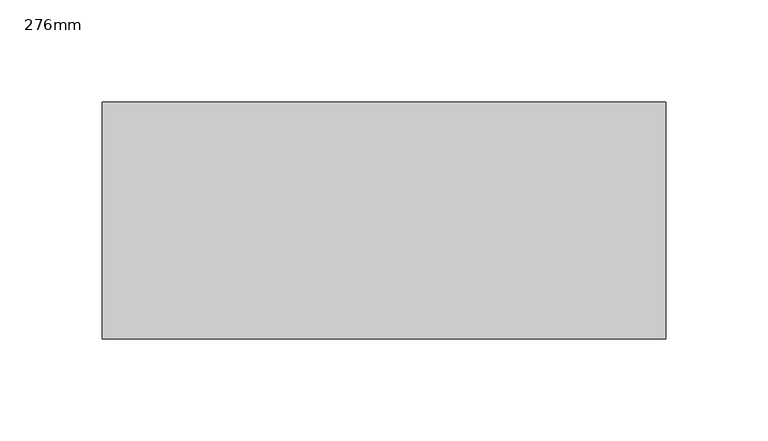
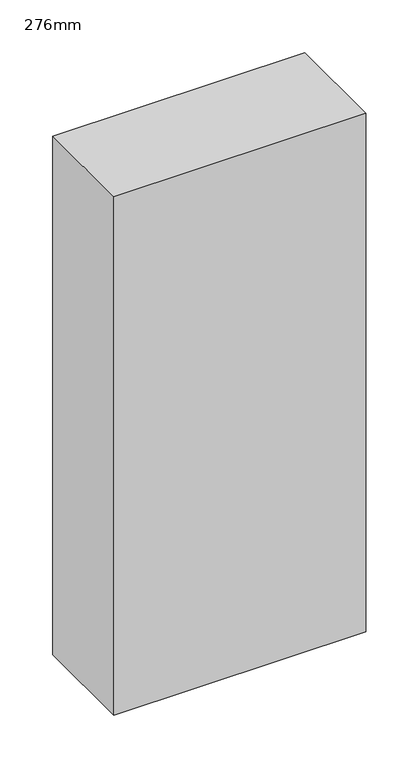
"""IFC4 building model written with IfcOpenShell, lengths in millimetres: proxy geometry, HVAC_Heaters_Zeppelin-Rental-GmbH_276 : 276mm."""

from ifc_helpers import new_model, si_unit, frame, origin, place, context, project, spatial, polyline, outline, extrude, source, transform, mapped, element, save


def proxy_276mm_ab83e847(model_context):
    return source(origin(), model_context, "Body", "SweptSolid", [
        extrude(outline(polyline([(263.0, -122.5), (-13.0, -122.5), (-13.0, -6.5), (263.0, -6.5), (263.0, -122.5)])), frame((0.0, 0.0, 160.0), z_axis=(0.0, 0.0, 1.0), x_axis=(1.0, 0.0, 0.0)), (0.0, 0.0, 1.0), 600.0),
    ])


if __name__ == "__main__":
    model = new_model("IFC4")
    model_context = context("Model", 3, world=origin())
    ifc_project = project(units=[si_unit("LENGTHUNIT", "METRE", prefix="MILLI")], contexts=[model_context])
    site = spatial("IfcSite", under=ifc_project)
    building = spatial("IfcBuilding", under=site)
    placement = place(None, origin())
    proxy_276mm_shape = proxy_276mm_ab83e847(model_context)
    element("IfcBuildingElementProxy", 1, Name="HVAC_Heaters_Zeppelin-Rental-GmbH_276 : 276mm", ObjectType="HVAC_Heaters_Zeppelin-Rental-GmbH_276 : 276mm", at=placement, inside=building, context=model_context, shape_type="MappedRepresentation", body=[
        mapped(proxy_276mm_shape, transform((0.0, 0.0, 0.0), x_axis=(1.0, 0.0, 0.0), y_axis=(0.0, 1.0, 0.0), z_axis=(0.0, 0.0, 1.0))),
    ])
    save(model, "model.ifc")
